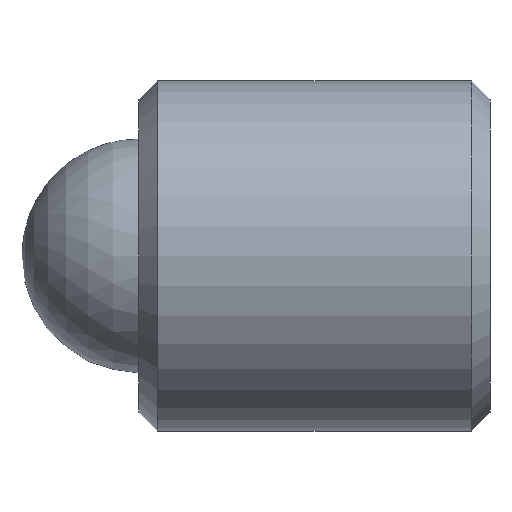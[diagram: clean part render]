
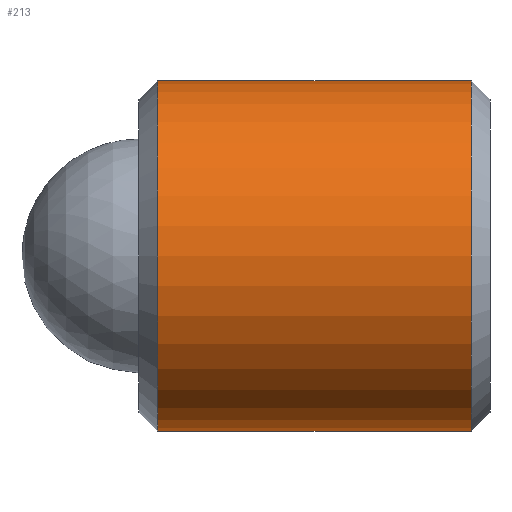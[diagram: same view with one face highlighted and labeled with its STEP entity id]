
A CAD part, front view. The second image highlights one B-rep face of the part: STEP entity #213.
In plain terms, the highlighted cylindrical face has radius 2.375 mm (diameter 4.75 mm), a partial arc.
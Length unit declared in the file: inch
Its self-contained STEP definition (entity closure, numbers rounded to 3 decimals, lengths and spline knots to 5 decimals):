
#8 = FACE_OUTER_BOUND ( 'NONE', #88, .T. ) ;
#62 = CARTESIAN_POINT ( 'NONE',  ( 0.01, 0., 0. ) ) ;
#73 = VERTEX_POINT ( 'NONE', #505 ) ;
#88 = EDGE_LOOP ( 'NONE', ( #587, #571, #545, #162 ) ) ;
#115 = VECTOR ( 'NONE', #486, 39.37008 ) ;
#118 = VERTEX_POINT ( 'NONE', #516 ) ;
#129 = VERTEX_POINT ( 'NONE', #329 ) ;
#130 = LINE ( 'NONE', #366, #228 ) ;
#162 = ORIENTED_EDGE ( 'NONE', *, *, #239, .T. ) ;
#170 = DIRECTION ( 'NONE',  ( 0., 0., -1. ) ) ;
#172 = AXIS2_PLACEMENT_3D ( 'NONE', #62, #436, #170 ) ;
#213 = ADVANCED_FACE ( 'NONE', ( #8 ), #371, .T. ) ;
#223 = DIRECTION ( 'NONE',  ( -1., 0., 0. ) ) ;
#228 = VECTOR ( 'NONE', #223, 39.37008 ) ;
#239 = EDGE_CURVE ( 'NONE', #129, #73, #393, .T. ) ;
#285 = EDGE_CURVE ( 'NONE', #374, #118, #286, .T. ) ;
#286 = CIRCLE ( 'NONE', #357, 0.0935 ) ;
#306 = CARTESIAN_POINT ( 'NONE',  ( 0.1875, 0., 0. ) ) ;
#307 = CARTESIAN_POINT ( 'NONE',  ( 0.1775, 0., 0. ) ) ;
#329 = CARTESIAN_POINT ( 'NONE',  ( 0.01, 0., 0.0935 ) ) ;
#332 = DIRECTION ( 'NONE',  ( 0., 0., 1. ) ) ;
#333 = DIRECTION ( 'NONE',  ( -1., 0., 0. ) ) ;
#354 = EDGE_CURVE ( 'NONE', #118, #129, #473, .T. ) ;
#357 = AXIS2_PLACEMENT_3D ( 'NONE', #307, #607, #422 ) ;
#366 = CARTESIAN_POINT ( 'NONE',  ( 0.1875, 0., -0.0935 ) ) ;
#371 = CYLINDRICAL_SURFACE ( 'NONE', #480, 0.0935 ) ;
#374 = VERTEX_POINT ( 'NONE', #385 ) ;
#385 = CARTESIAN_POINT ( 'NONE',  ( 0.1775, 0., -0.0935 ) ) ;
#393 = CIRCLE ( 'NONE', #172, 0.0935 ) ;
#422 = DIRECTION ( 'NONE',  ( 0., 0., -1. ) ) ;
#436 = DIRECTION ( 'NONE',  ( 1., 0., 0. ) ) ;
#473 = LINE ( 'NONE', #561, #115 ) ;
#480 = AXIS2_PLACEMENT_3D ( 'NONE', #306, #333, #332 ) ;
#486 = DIRECTION ( 'NONE',  ( -1., 0., 0. ) ) ;
#505 = CARTESIAN_POINT ( 'NONE',  ( 0.01, 0., -0.0935 ) ) ;
#516 = CARTESIAN_POINT ( 'NONE',  ( 0.1775, 0., 0.0935 ) ) ;
#545 = ORIENTED_EDGE ( 'NONE', *, *, #354, .T. ) ;
#561 = CARTESIAN_POINT ( 'NONE',  ( 0.1875, 0., 0.0935 ) ) ;
#571 = ORIENTED_EDGE ( 'NONE', *, *, #285, .T. ) ;
#587 = ORIENTED_EDGE ( 'NONE', *, *, #601, .F. ) ;
#601 = EDGE_CURVE ( 'NONE', #374, #73, #130, .T. ) ;
#607 = DIRECTION ( 'NONE',  ( -1., 0., 0. ) ) ;
